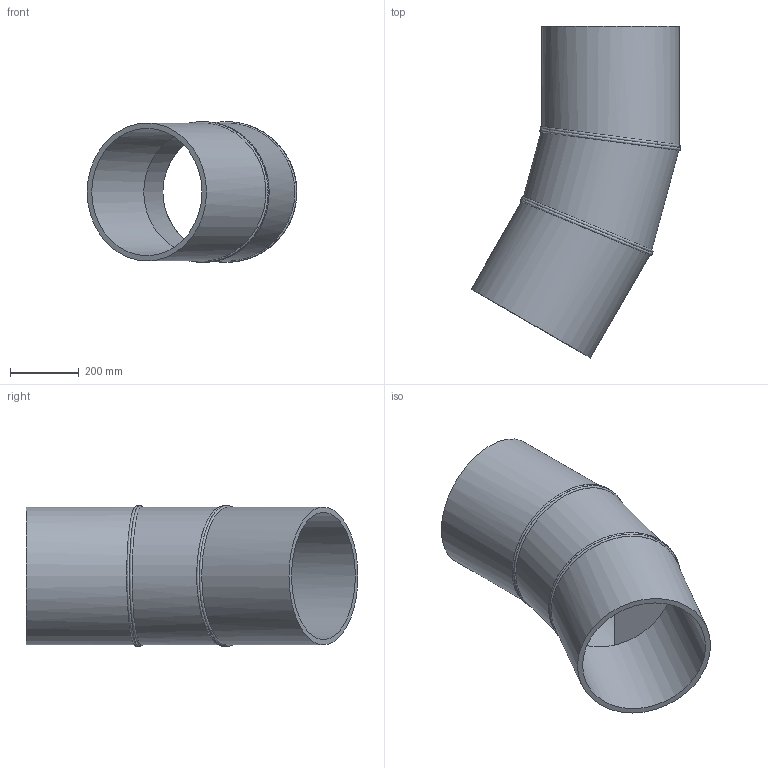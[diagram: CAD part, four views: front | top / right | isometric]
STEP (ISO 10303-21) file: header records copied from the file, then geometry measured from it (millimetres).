
FILE_DESCRIPTION(/* description */ ('Unknown'),/* implementation_level */ '2;1');
FILE_NAME(/* name */ 'Curva 30° a settore DE400 SDR26',/* time_stamp */ '2022-07-26T09:14:25+02:00',/* author */ ('Unknown'),/* organization */ ('Unknown'),/* preprocessor_version */ 'ST-DEVELOPER v18.102',/* originating_system */ 'Solid Edge',/* authorisation */ 'Unknown');
FILE_SCHEMA (('AUTOMOTIVE_DESIGN {1 0 10303 214 3 1 1}'));
Length unit declared in the file: millimetre
Products named in the file (3): Curva 30° a settore DE400 SDR26; Tubo x Gomito 30° DE400 SDR26 - 1; Tubo x Gomito 30° DE400 SDR26 - 2
Assembly tree (3 placements, depth 2):
  Curva 30° a settore DE400 SDR26
    Tubo x Gomito 30° DE400 SDR26 - 1  x2
    Tubo x Gomito 30° DE400 SDR26 - 2
Bounding box: 608.34 x 962.65 x 407.99 mm (x, y, z)
Volume: 17051717.8 mm3; surface area: 2347874.5 mm2
Topology: 3 solids, 3 shells, 24 faces, 51 edges, 33 vertices
Faces by surface type: cylinder 14, plane 6, bspline 4
Full cylindrical faces by diameter (mm): 369.4 x3, 400 x3
Entity records: 2376 total; most frequent: CARTESIAN_POINT 1981, DIRECTION 70, ORIENTED_EDGE 52, AXIS2_PLACEMENT_3D 35, EDGE_LOOP 28, FACE_BOUND 28, EDGE_CURVE 26, VERTEX_POINT 20
